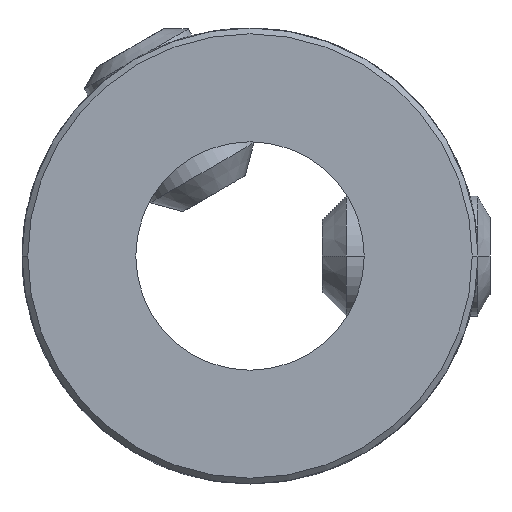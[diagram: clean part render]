
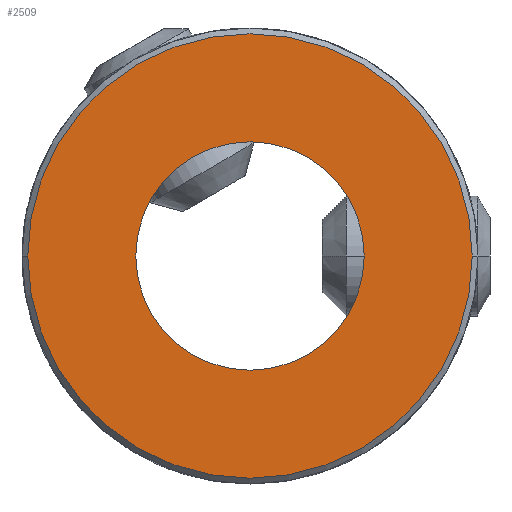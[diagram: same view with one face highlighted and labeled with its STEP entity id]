
A CAD part, front view. The second image highlights one B-rep face of the part: STEP entity #2509.
In plain terms, the highlighted planar face has unit normal (0, -1, 0).
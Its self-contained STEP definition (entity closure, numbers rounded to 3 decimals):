
#1=CARTESIAN_POINT('',(0.,-9.8,0.));
#2=DIRECTION('',(0.,-1.,0.));
#3=DIRECTION('',(-1.,0.,0.));
#4=AXIS2_PLACEMENT_3D('',#1,#2,#3);
#6=CARTESIAN_POINT('',(0.,-9.8,
0.));
#7=DIRECTION('',(0.,-1.,0.));
#8=DIRECTION('',(1.,0.,0.));
#9=AXIS2_PLACEMENT_3D('',#6,#7,#8);
#11=CARTESIAN_POINT('',(0.,-9.8,0.));
#12=DIRECTION('',(0.,1.,0.));
#13=DIRECTION('',(1.,0.,0.));
#14=AXIS2_PLACEMENT_3D('',#11,#12,#13);
#16=CARTESIAN_POINT('',(0.,-9.8,0.));
#17=DIRECTION('',(0.,1.,0.));
#18=DIRECTION('',(-1.,0.,0.));
#19=AXIS2_PLACEMENT_3D('',#16,#17,#18);
#2282=CARTESIAN_POINT('',(2.38,-9.8,0.));
#2283=CARTESIAN_POINT('',(-2.38,-9.8,0.));
#2284=VERTEX_POINT('',#2282);
#2285=VERTEX_POINT('',#2283);
#2310=CARTESIAN_POINT('',(-4.63,-9.8,0.));
#2311=CARTESIAN_POINT('',(4.63,-9.8,0.));
#2312=VERTEX_POINT('',#2310);
#2313=VERTEX_POINT('',#2311);
#2492=CARTESIAN_POINT('',(0.,-9.8,0.));
#2493=DIRECTION('',(0.,1.,0.));
#2494=DIRECTION('',(1.,0.,0.));
#2495=AXIS2_PLACEMENT_3D('',#2492,#2493,#2494);
#2496=PLANE('',#2495);
#2498=ORIENTED_EDGE('',*,*,#2497,.F.);
#2500=ORIENTED_EDGE('',*,*,#2499,.F.);
#2501=EDGE_LOOP('',(#2498,#2500));
#2502=FACE_OUTER_BOUND('',#2501,.F.);
#2504=ORIENTED_EDGE('',*,*,#2503,.F.);
#2506=ORIENTED_EDGE('',*,*,#2505,.F.);
#2507=EDGE_LOOP('',(#2504,#2506));
#2508=FACE_BOUND('',#2507,.F.);
#2509=ADVANCED_FACE('',(#2502,#2508),#2496,.F.);
#5=CIRCLE('',#4,4.63);
#10=CIRCLE('',#9,4.63);
#15=CIRCLE('',#14,2.38);
#20=CIRCLE('',#19,2.38);
#2497=EDGE_CURVE('',#2312,#2313,#5,.T.);
#2499=EDGE_CURVE('',#2313,#2312,#10,.T.);
#2503=EDGE_CURVE('',#2284,#2285,#15,.T.);
#2505=EDGE_CURVE('',#2285,#2284,#20,.T.);
